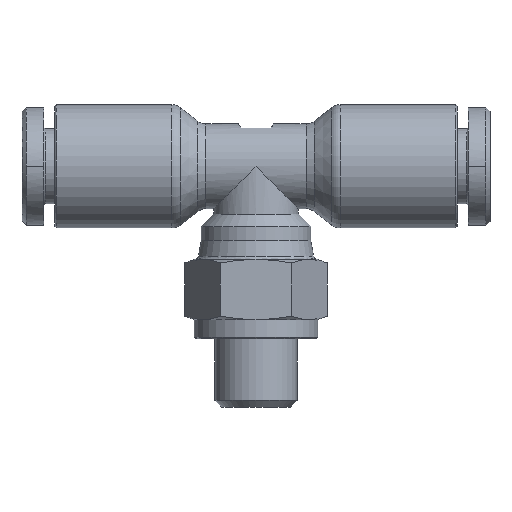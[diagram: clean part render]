
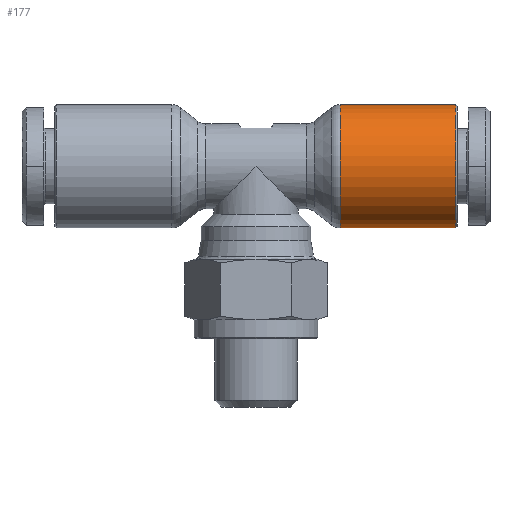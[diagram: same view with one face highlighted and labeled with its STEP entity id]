
A CAD part, front view. The second image highlights one B-rep face of the part: STEP entity #177.
In plain terms, the highlighted cylindrical face has radius 4.5 mm (diameter 9 mm), a partial arc.
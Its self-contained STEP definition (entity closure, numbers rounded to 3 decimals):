
#136=CARTESIAN_POINT('',(14.75,0.,0.0));
#137=DIRECTION('',(1.0,0.0,0.0));
#138=DIRECTION('',(0.0,0.0,1.0));
#139=AXIS2_PLACEMENT_3D('',#136,#137,#138);
#140=CYLINDRICAL_SURFACE('',#139,4.5);
#141=CARTESIAN_POINT('',(11.243,0.,4.5));
#142=VERTEX_POINT('',#141);
#143=CARTESIAN_POINT('',(19.7,0.,4.5));
#144=VERTEX_POINT('',#143);
#145=CARTESIAN_POINT('',(11.243,0.,4.5));
#146=DIRECTION('',(1.0,0.0,0.0));
#147=VECTOR('',#146,8.457);
#148=LINE('',#145,#147);
#149=EDGE_CURVE('',#142,#144,#148,.T.);
#150=ORIENTED_EDGE('',*,*,#149,.F.);
#151=CARTESIAN_POINT('',(11.243,0.,-4.5));
#152=VERTEX_POINT('',#151);
#153=CARTESIAN_POINT('',(11.243,0.,0.0));
#154=DIRECTION('',(-1.0,0.0,0.0));
#155=DIRECTION('',(0.0,0.0,-1.0));
#156=AXIS2_PLACEMENT_3D('',#153,#154,#155);
#157=CIRCLE('',#156,4.5);
#158=EDGE_CURVE('',#152,#142,#157,.T.);
#159=ORIENTED_EDGE('',*,*,#158,.F.);
#160=CARTESIAN_POINT('',(19.7,0.,-4.5));
#161=VERTEX_POINT('',#160);
#162=CARTESIAN_POINT('',(19.7,0.,-4.5));
#163=DIRECTION('',(-1.0,0.0,0.0));
#164=VECTOR('',#163,8.457);
#165=LINE('',#162,#164);
#166=EDGE_CURVE('',#161,#152,#165,.T.);
#167=ORIENTED_EDGE('',*,*,#166,.F.);
#168=CARTESIAN_POINT('',(19.7,0.,0.));
#169=DIRECTION('',(1.0,0.0,0.0));
#170=DIRECTION('',(0.0,0.0,-1.0));
#171=AXIS2_PLACEMENT_3D('',#168,#169,#170);
#172=CIRCLE('',#171,4.5);
#173=EDGE_CURVE('',#144,#161,#172,.T.);
#174=ORIENTED_EDGE('',*,*,#173,.F.);
#175=EDGE_LOOP('',(#150,#159,#167,#174));
#176=FACE_OUTER_BOUND('',#175,.T.);
#177=ADVANCED_FACE('',(#176),#140,.T.);
